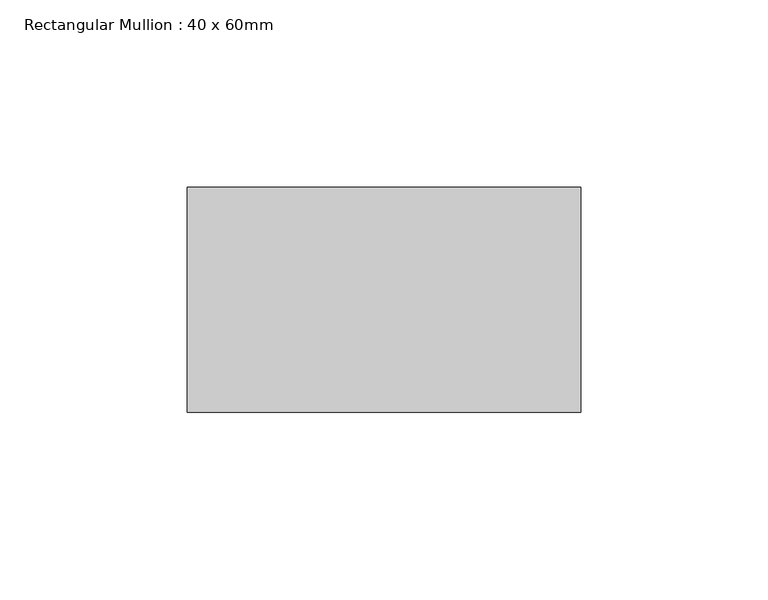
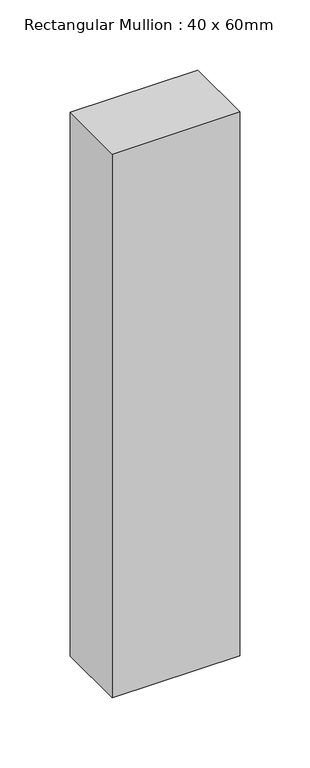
"""IFC4 building model written with IfcOpenShell, lengths in millimetres: member geometry, Rectangular Mullion : 40 x 60mm."""

from ifc_helpers import new_model, si_unit, frame, origin, place, context, project, spatial, polyline, outline, extrude, source, transform, mapped, element, save


def rectangular_mullion_40_x_60mm_42ee7e82(model_context):
    return source(origin(), model_context, "Body", "SweptSolid", [
        extrude(outline(polyline([(0.0, -10.0), (0.0, -70.0), (-105.0, -70.0), (-105.0, -10.0), (0.0, -10.0)])), frame((0.0, 0.0, -473.7800138), z_axis=(0.0, 0.0, 1.0), x_axis=(1.0, 0.0, 0.0)), (0.0, 0.0, 1.0), 473.7800138),
    ])


if __name__ == "__main__":
    model = new_model("IFC4")
    model_context = context("Model", 3, world=origin())
    ifc_project = project(units=[si_unit("LENGTHUNIT", "METRE", prefix="MILLI")], contexts=[model_context])
    site = spatial("IfcSite", under=ifc_project)
    building = spatial("IfcBuilding", under=site)
    placement = place(None, origin())
    rectangular_mullion_40_x_60mm_shape = rectangular_mullion_40_x_60mm_42ee7e82(model_context)
    element("IfcMember", 1, ObjectType="Rectangular Mullion : 40 x 60mm", at=placement, inside=building, context=model_context, shape_type="MappedRepresentation", body=[
        mapped(rectangular_mullion_40_x_60mm_shape, transform((0.0, 0.0, 0.0), x_axis=(1.0, 0.0, 0.0), y_axis=(0.0, 1.0, 0.0), z_axis=(0.0, 0.0, 1.0))),
    ])
    save(model, "model.ifc")
